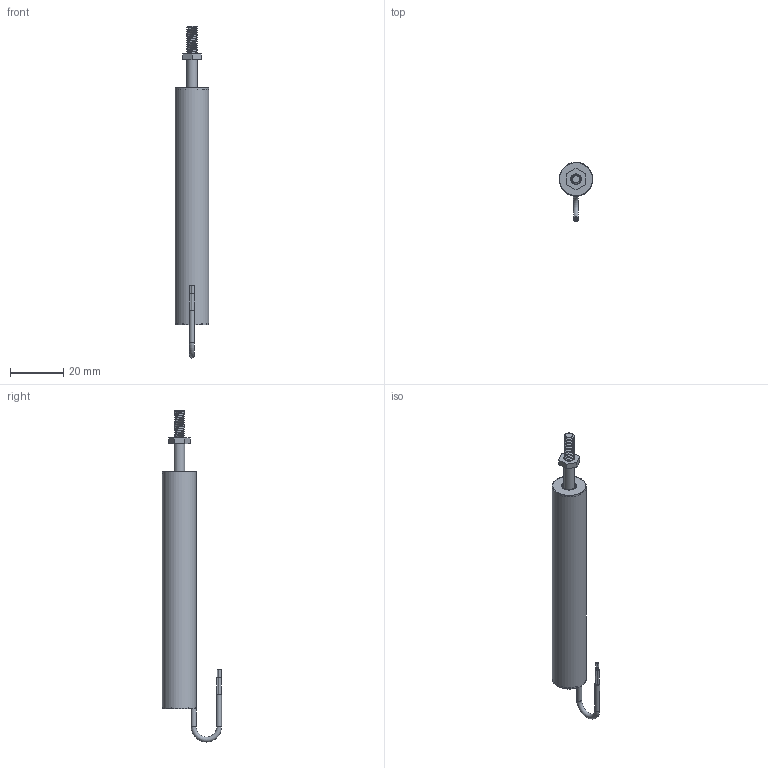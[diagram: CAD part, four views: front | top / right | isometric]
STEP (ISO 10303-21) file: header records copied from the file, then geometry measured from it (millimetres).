
FILE_DESCRIPTION(/* description */ (''),/* implementation_level */ '2;1');
FILE_NAME(/* name */ 'C:\Users\Justin\Documents\CAD\The Sensor Connection\Position Sensors\Displacement\ILPS\3D\Mechanically Linked\ILPS-13Z-XXX-A-00-YY-S\ILPS-13Z-03-A-00-YY-S\ILPS-13Z-03-A-00-YY-S Assembly_SW.iam.stp',/* time_stamp */ '2022-06-03T09:26:05-04:00',/* author */ ('TSC_Grant'),/* organization */ (''),/* preprocessor_version */ 'ST-DEVELOPER v19',/* originating_system */ 'Autodesk Inventor 2023',/* authorisation */ '');
FILE_SCHEMA (('AUTOMOTIVE_DESIGN { 1 0 10303 214 3 1 1 }'));
Length unit declared in the file: inch
Products named in the file (5): 3020-0017-XX Assembly_SW; 3020-0017-XX Sensor Tube_SW; 3020-0017-XX Shaft_SW; 3020-0017-XX Wire_SW; BS 4183 - M4
Assembly tree (4 placements, depth 2):
  3020-0017-XX Assembly_SW
    3020-0017-XX Sensor Tube_SW
    3020-0017-XX Shaft_SW
    3020-0017-XX Wire_SW
    BS 4183 - M4
Bounding box: 12.7 x 22.14 x 124.53 mm (x, y, z)
Volume: 2511.9 mm3; surface area: 12211.8 mm2
Topology: 7 solids, 7 shells, 60 faces, 112 edges, 74 vertices
Faces by surface type: plane 31, cylinder 21, cone 4, bspline 3, torus 1
Full cylindrical faces by diameter (mm): 0.508 x4, 0.635 x4, 1.857 x2, 3.242 x1, 3.988 x1, 4.826 x1, 5.588 x3, 12.446 x2, 12.7 x1
Entity records: 3399 total; most frequent: CARTESIAN_POINT 1856, DIRECTION 281, ORIENTED_EDGE 224, AXIS2_PLACEMENT_3D 116, EDGE_CURVE 112, EDGE_LOOP 78, VERTEX_POINT 74, FACE_OUTER_BOUND 60
